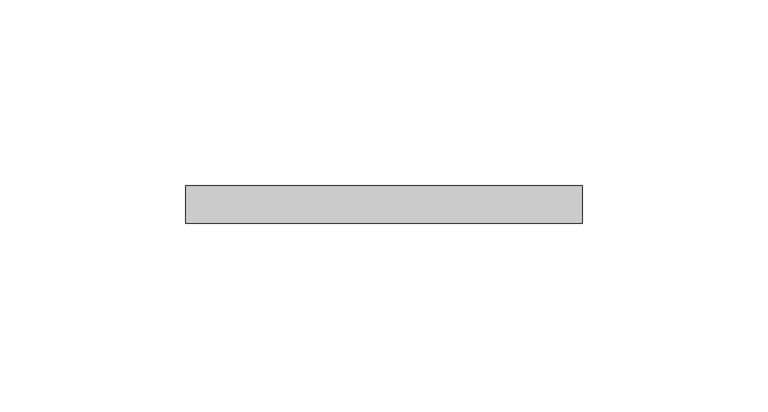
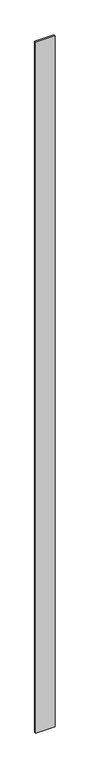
"""IFC4 building model written with IfcOpenShell, lengths in millimetres: plate geometry, システム パネル : 標準."""

from ifc_helpers import new_model, si_unit, origin, origin_with_axes, place, context, project, spatial, polyline, outline, extrude, source, transform, mapped, element, save


def plate_5a60b334(model_context):
    return source(origin(), model_context, "Body", "SweptSolid", [
        extrude(outline(polyline([(53.254713, -5.0), (-53.254713, -5.0), (-53.254713, 5.0), (53.254713, 5.0), (53.254713, -5.0)])), origin_with_axes(), (0.0, 0.0, 1.0), 4000.0),
    ])


if __name__ == "__main__":
    model = new_model("IFC4")
    model_context = context("Model", 3, world=origin())
    ifc_project = project(units=[si_unit("LENGTHUNIT", "METRE", prefix="MILLI")], contexts=[model_context])
    site = spatial("IfcSite", under=ifc_project)
    building = spatial("IfcBuilding", under=site)
    placement = place(None, origin())
    plate_shape = plate_5a60b334(model_context)
    element("IfcPlate", 1, ObjectType="システム パネル : 標準", at=placement, inside=building, context=model_context, shape_type="MappedRepresentation", body=[
        mapped(plate_shape, transform((0.0, 0.0, 0.0), x_axis=(1.0, 0.0, 0.0), y_axis=(0.0, 1.0, 0.0), z_axis=(0.0, 0.0, 1.0))),
    ])
    save(model, "model.ifc")
